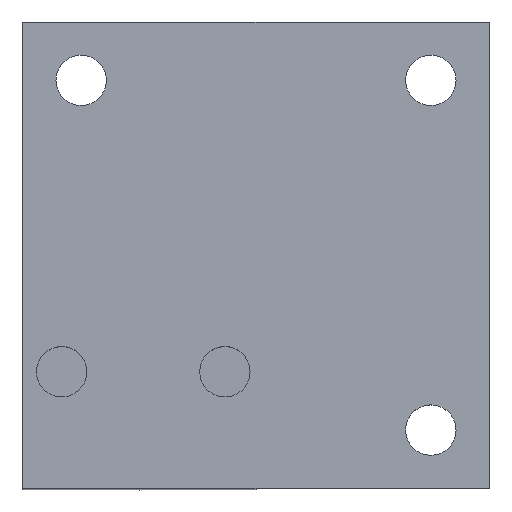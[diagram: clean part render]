
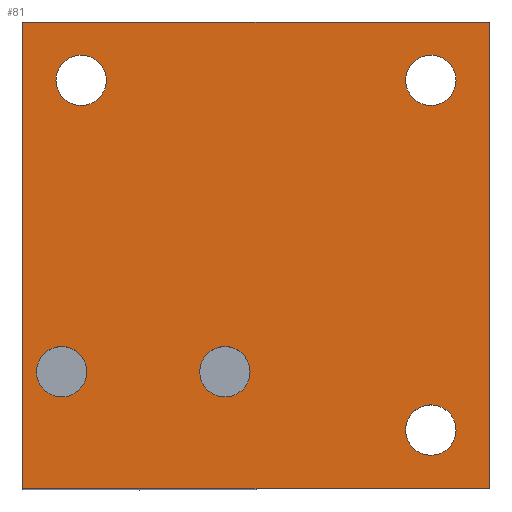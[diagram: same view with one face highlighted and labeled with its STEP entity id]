
A CAD part, top view. The second image highlights one B-rep face of the part: STEP entity #81.
In plain terms, the highlighted planar face has unit normal (0, 0, 1).
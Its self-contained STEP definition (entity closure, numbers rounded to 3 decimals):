
#81 = ADVANCED_FACE( '', ( #166, #167, #168, #169, #170, #171 ), #172, .T. );
#166 = FACE_BOUND( '', #250, .T. );
#167 = FACE_BOUND( '', #251, .T. );
#168 = FACE_OUTER_BOUND( '', #252, .T. );
#169 = FACE_BOUND( '', #253, .T. );
#170 = FACE_BOUND( '', #254, .T. );
#171 = FACE_BOUND( '', #255, .T. );
#172 = PLANE( '', #256 );
#250 = EDGE_LOOP( '', ( #400 ) );
#251 = EDGE_LOOP( '', ( #401 ) );
#252 = EDGE_LOOP( '', ( #402, #403, #404, #405 ) );
#253 = EDGE_LOOP( '', ( #406 ) );
#254 = EDGE_LOOP( '', ( #407 ) );
#255 = EDGE_LOOP( '', ( #408 ) );
#256 = AXIS2_PLACEMENT_3D( '', #409, #410, #411 );
#400 = ORIENTED_EDGE( '', *, *, #474, .F. );
#401 = ORIENTED_EDGE( '', *, *, #441, .F. );
#402 = ORIENTED_EDGE( '', *, *, #451, .T. );
#403 = ORIENTED_EDGE( '', *, *, #486, .T. );
#404 = ORIENTED_EDGE( '', *, *, #465, .T. );
#405 = ORIENTED_EDGE( '', *, *, #458, .T. );
#406 = ORIENTED_EDGE( '', *, *, #463, .F. );
#407 = ORIENTED_EDGE( '', *, *, #487, .F. );
#408 = ORIENTED_EDGE( '', *, *, #484, .F. );
#409 = CARTESIAN_POINT( '', ( 0., 0., 0. ) );
#410 = DIRECTION( '', ( 0., 0., 1. ) );
#411 = DIRECTION( '', ( 1., 0., 0. ) );
#441 = EDGE_CURVE( '', #509, #509, #510, .T. );
#451 = EDGE_CURVE( '', #526, #524, #527, .T. );
#458 = EDGE_CURVE( '', #537, #526, #538, .T. );
#463 = EDGE_CURVE( '', #545, #545, #546, .T. );
#465 = EDGE_CURVE( '', #548, #537, #549, .T. );
#474 = EDGE_CURVE( '', #559, #559, #560, .T. );
#484 = EDGE_CURVE( '', #572, #572, #573, .T. );
#486 = EDGE_CURVE( '', #524, #548, #575, .T. );
#487 = EDGE_CURVE( '', #576, #576, #577, .T. );
#509 = VERTEX_POINT( '', #605 );
#510 = CIRCLE( '', #606, 3.24 );
#524 = VERTEX_POINT( '', #620 );
#526 = VERTEX_POINT( '', #623 );
#527 = LINE( '', #624, #625 );
#537 = VERTEX_POINT( '', #640 );
#538 = LINE( '', #641, #642 );
#545 = VERTEX_POINT( '', #651 );
#546 = CIRCLE( '', #652, 3.24 );
#548 = VERTEX_POINT( '', #654 );
#549 = LINE( '', #655, #656 );
#559 = VERTEX_POINT( '', #671 );
#560 = CIRCLE( '', #672, 3.24 );
#572 = VERTEX_POINT( '', #686 );
#573 = CIRCLE( '', #687, 3.24 );
#575 = LINE( '', #689, #690 );
#576 = VERTEX_POINT( '', #691 );
#577 = CIRCLE( '', #692, 3.24 );
#605 = CARTESIAN_POINT( '', ( -44.26, -37.5, 0. ) );
#606 = AXIS2_PLACEMENT_3D( '', #707, #708, #709 );
#620 = CARTESIAN_POINT( '', ( -52.5, -52.5, 0. ) );
#623 = CARTESIAN_POINT( '', ( -52.5, 7.5, 0. ) );
#624 = CARTESIAN_POINT( '', ( -52.5, 7.5, 0. ) );
#625 = VECTOR( '', #726, 1000. );
#640 = CARTESIAN_POINT( '', ( 7.5, 7.5, 0. ) );
#641 = CARTESIAN_POINT( '', ( 7.5, 7.5, 0. ) );
#642 = VECTOR( '', #732, 1000. );
#651 = CARTESIAN_POINT( '', ( -41.76, 0., 0. ) );
#652 = AXIS2_PLACEMENT_3D( '', #738, #739, #740 );
#654 = CARTESIAN_POINT( '', ( 7.5, -52.5, 0. ) );
#655 = CARTESIAN_POINT( '', ( 7.5, -52.5, 0. ) );
#656 = VECTOR( '', #741, 1000. );
#671 = CARTESIAN_POINT( '', ( -23.26, -37.5, 0. ) );
#672 = AXIS2_PLACEMENT_3D( '', #747, #748, #749 );
#686 = CARTESIAN_POINT( '', ( 3.24, 0., 0. ) );
#687 = AXIS2_PLACEMENT_3D( '', #758, #759, #760 );
#689 = CARTESIAN_POINT( '', ( -52.5, -52.5, 0. ) );
#690 = VECTOR( '', #761, 1000. );
#691 = CARTESIAN_POINT( '', ( 3.24, -45., 0. ) );
#692 = AXIS2_PLACEMENT_3D( '', #762, #763, #764 );
#707 = CARTESIAN_POINT( '', ( -47.5, -37.5, 0. ) );
#708 = DIRECTION( '', ( 0., 0., 1. ) );
#709 = DIRECTION( '', ( 1., 0., 0. ) );
#726 = DIRECTION( '', ( 0., -1., 0. ) );
#732 = DIRECTION( '', ( -1., 0., 0. ) );
#738 = CARTESIAN_POINT( '', ( -45., 0., 0. ) );
#739 = DIRECTION( '', ( 0., 0., 1. ) );
#740 = DIRECTION( '', ( 1., 0., 0. ) );
#741 = DIRECTION( '', ( 0., 1., 0. ) );
#747 = CARTESIAN_POINT( '', ( -26.5, -37.5, 0. ) );
#748 = DIRECTION( '', ( 0., 0., 1. ) );
#749 = DIRECTION( '', ( 1., 0., 0. ) );
#758 = CARTESIAN_POINT( '', ( 0., 0., 0. ) );
#759 = DIRECTION( '', ( 0., 0., 1. ) );
#760 = DIRECTION( '', ( 1., 0., 0. ) );
#761 = DIRECTION( '', ( 1., 0., 0. ) );
#762 = CARTESIAN_POINT( '', ( 0., -45., 0. ) );
#763 = DIRECTION( '', ( 0., 0., 1. ) );
#764 = DIRECTION( '', ( 1., 0., 0. ) );
